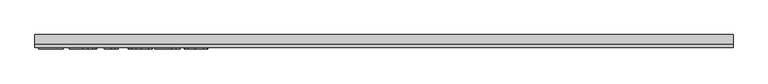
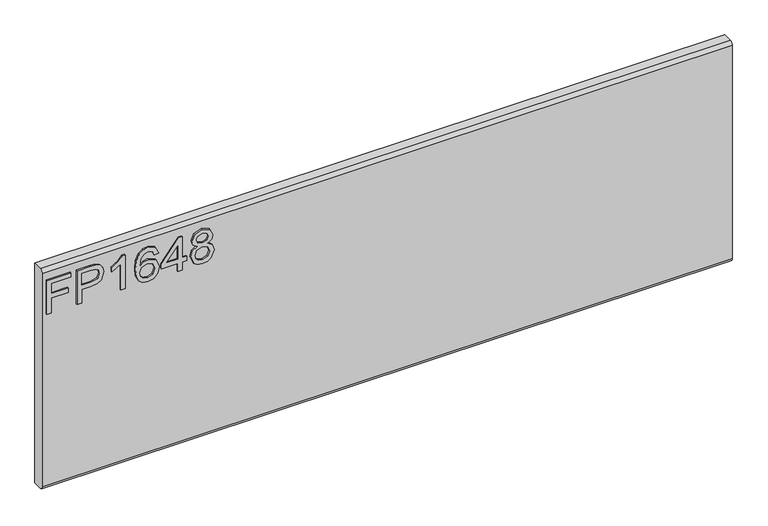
"""IFC4 building model written with IfcOpenShell, lengths in millimetres: furniture geometry."""

from ifc_helpers import new_model, si_unit, frame, origin, place, context, project, spatial, polyline, circle_curve, outline, extrude, source, transform, mapped, element, save
from ifc_brep_helpers import plane_surface, cylinder_surface, advanced_brep


def furniture_0245ad47(model_context):
    return source(origin(), model_context, "Body", "SolidModel", [
        extrude(outline(polyline([(476.25, -596.4115385), (476.25, -588.5961538), (504.5807692, -588.5961538), (504.5807692, -559.2884615), (512.3961538, -559.2884615), (512.3961538, -588.5961538), (530.9576923, -588.5961538), (530.9576923, -554.4038462), (538.7730769, -554.4038462), (538.7730769, -596.4115385), (476.25, -596.4115385)])), frame((0.0, -15.0812439, 0.0), z_axis=(0.0, 1.0, 0.0), x_axis=(0.0, 0.0, 1.0)), (0.0, 0.0, 1.0), 2.38125),
        extrude(outline(polyline([(476.25, -543.6576923), (476.25, -535.8423077), (501.65, -535.8423077), (501.65, -519.9520433), (503.0314303, -508.8490835), (507.1757212, -501.795012), (520.6847356, -496.7653846), (529.2099159, -498.6276442), (535.2546274, -503.5504207), (538.1777644, -511.1444712), (538.7730769, -520.4862981), (538.7730769, -543.6576923), (476.25, -543.6576923)]), holes=[polyline([(509.4653846, -535.8423077), (530.9576923, -535.8423077), (530.9576923, -519.6772837), (530.4234375, -511.861899), (526.8820913, -506.5880409), (520.409976, -504.5807692), (512.3350962, -507.9847356), (509.4653846, -519.4941106), (509.4653846, -535.8423077)])]), frame((0.0, -15.0812439, 0.0), z_axis=(0.0, 1.0, 0.0), x_axis=(0.0, 0.0, 1.0)), (0.0, 0.0, 1.0), 2.38125),
        extrude(outline(polyline([(476.25, -459.6423077), (538.7730769, -459.6423077), (538.7730769, -464.6795673), (530.4539663, -471.632512), (523.1423077, -483.0884615), (515.7543269, -483.0884615), (519.7001803, -474.8609375), (524.9740385, -467.4576923), (476.25, -467.4576923), (476.25, -459.6423077)])), frame((0.0, -15.0812439, 0.0), z_axis=(0.0, 1.0, 0.0), x_axis=(0.0, 0.0, 1.0)), (0.0, 0.0, 1.0), 2.38125),
        extrude(outline(polyline([(522.1653846, -401.0269231), (534.3616587, -406.796875), (538.7730769, -419.1457933), (536.9909555, -428.2166767), (531.6445913, -435.2192308), (521.0014724, -440.3480769), (505.4355769, -442.0576923), (491.5907452, -440.5178936), (482.2947115, -435.8984976), (477.0284856, -428.8367939), (475.2730769, -419.9700721), (477.9214543, -409.7276442), (485.5536659, -402.6296875), (496.3379808, -400.05), (510.7323317, -405.5299279), (516.3038462, -418.809976), (514.2660457, -427.3504207), (508.0305288, -434.2423077), (521.9593149, -432.0213341), (529.0649038, -426.6864183), (530.9576923, -419.6342548), (527.7063702, -411.8036058), (521.1884615, -408.8423077), (522.1653846, -401.0269231)]), holes=[polyline([(496.4600962, -434.2423077), (505.1684495, -430.357512), (508.4884615, -420.9012019), (505.1684495, -411.3227764), (496.0784856, -407.8653846), (486.5840144, -411.3685697), (483.0884615, -420.580649), (484.7751803, -427.6251803), (489.6903245, -432.4334736), (496.4600962, -434.2423077)])]), frame((0.0, -15.0812439, 0.0), z_axis=(0.0, 1.0, 0.0), x_axis=(0.0, 0.0, 1.0)), (0.0, 0.0, 1.0), 2.38125),
        extrude(outline(polyline([(476.25, -367.8115385), (476.25, -359.9961538), (490.9038462, -359.9961538), (490.9038462, -352.1807692), (498.7192308, -352.1807692), (498.7192308, -359.9961538), (537.7961538, -359.9961538), (537.7961538, -365.8576923), (498.7192308, -396.1423077), (490.9038462, -396.1423077), (490.9038462, -367.8115385), (476.25, -367.8115385)]), holes=[polyline([(498.7192308, -367.8115385), (498.7192308, -386.5257212), (522.8675481, -367.8115385), (498.7192308, -367.8115385)])]), frame((0.0, -15.0812439, 0.0), z_axis=(0.0, 1.0, 0.0), x_axis=(0.0, 0.0, 1.0)), (0.0, 0.0, 1.0), 2.38125),
        extrude(outline(polyline([(510.6865385, -333.9550481), (505.0081731, -342.3810096), (494.6588942, -345.3423077), (480.8216947, -339.6944712), (476.6602314, -333.1536659), (475.2730769, -324.8269231), (476.6545072, -316.5001803), (480.7987981, -309.959375), (494.4451923, -304.3115385), (504.5578726, -307.1583534), (510.6865385, -315.4698317), (515.5177284, -308.5474159), (522.8828125, -306.2653846), (534.1479567, -311.3942308), (538.7730769, -324.933774), (534.2548077, -338.3512019), (523.0965144, -343.3884615), (515.540625, -341.0759014), (510.6865385, -333.9550481)]), holes=[polyline([(522.8675481, -335.5730769), (528.5764423, -332.7567909), (530.9576923, -324.8269231), (528.5230168, -316.9199519), (522.5164663, -314.0807692), (516.7159856, -316.8283654), (514.35, -324.7353365), (516.73125, -332.8025841), (522.8675481, -335.5730769)]), polyline([(494.9336538, -337.5269231), (503.2222356, -334.2221755), (506.5346154, -325.0253606), (503.1764423, -315.5614183), (494.6894231, -312.1269231), (486.3626803, -315.4545673), (483.0884615, -324.7658654), (484.6454327, -331.6043269), (489.0492188, -336.2218149), (494.9336538, -337.5269231)])]), frame((0.0, -15.0812439, 0.0), z_axis=(0.0, 1.0, 0.0), x_axis=(0.0, 0.0, 1.0)), (0.0, 0.0, 1.0), 2.38125),
        advanced_brep(
        [(603.25, 9.5250061, 558.8), (603.25, -6.7309939, 558.8), (603.25, -12.6999939, 552.831), (603.25, -12.6999939, 158.369), (603.25, -6.7309939, 152.4), (603.25, 9.5250061, 152.4), (-603.25, 9.5250061, 558.8), (-603.25, 9.5250061, 152.4), (-603.25, -6.7309939, 152.4), (-603.25, -12.6999939, 158.369), (-603.25, -12.6999939, 552.8310121), (-603.25, -6.7309939, 558.8)],
        [
            (0, 1),
            (1, 2, circle_curve(frame((603.25, -6.7309939, 552.831), z_axis=(1.0, 0.0, 0.0), x_axis=(0.0, 1.0, 0.0)), 5.969)),
            (2, 3),
            (3, 4, circle_curve(frame((603.25, -6.7309939, 158.369), z_axis=(1.0, 0.0, 0.0), x_axis=(0.0, 1.0, 0.0)), 5.969)),
            (4, 5),
            (5, 0),
            (6, 7),
            (7, 8),
            (8, 9, circle_curve(frame((-603.25, -6.7309939, 158.369), z_axis=(-1.0, 0.0, 0.0), x_axis=(0.0, 1.0, 0.0)), 5.969)),
            (9, 10),
            (10, 11, circle_curve(frame((-603.25, -6.7309939, 552.831), z_axis=(-1.0, 0.0, 0.0), x_axis=(0.0, 1.0, 0.0)), 5.969)),
            (11, 6),
            (0, 6),
            (11, 1),
            (10, 2),
            (9, 3),
            (8, 4),
            (7, 5),
        ],
        [
            plane_surface(frame((603.25, -6.7309939, 558.8), z_axis=(1.0, 0.0, 0.0), x_axis=(0.0, -1.0, 0.0))),
            plane_surface(frame((-603.25, -6.7309939, 558.8), z_axis=(-1.0, 0.0, 0.0), x_axis=(0.0, 1.0, 0.0))),
            plane_surface(frame((603.25, 9.5250061, 558.8), z_axis=(0.0, 0.0, 1.0), x_axis=(-1.0, 0.0, 0.0))),
            cylinder_surface(frame((-603.25, -6.7309939, 552.831), z_axis=(1.0, 0.0, 0.0), x_axis=(0.0, 1.0, 0.0)), 5.969),
            plane_surface(frame((603.25, -12.6999939, 552.8310121), z_axis=(0.0, -1.0, 0.0), x_axis=(-1.0, 0.0, 0.0))),
            cylinder_surface(frame((-603.25, -6.7309939, 158.369), z_axis=(1.0, 0.0, 0.0), x_axis=(0.0, 1.0, 0.0)), 5.969),
            plane_surface(frame((603.25, -6.7309939, 152.4), z_axis=(0.0, 0.0, -1.0), x_axis=(-1.0, 0.0, 0.0))),
            plane_surface(frame((603.25, 9.5250061, 152.4), z_axis=(0.0, 1.0, 0.0), x_axis=(-1.0, 0.0, 0.0))),
        ],
        [
            (0, [[1, 2, 3, 4, 5, 6]]),
            (1, [[7, 8, 9, 10, 11, 12]]),
            (2, [[-1, 13, -12, 14]]),
            (3, [[-2, -14, -11, 15]]),
            (4, [[-3, -15, -10, 16]]),
            (5, [[-4, -16, -9, 17]]),
            (6, [[-5, -17, -8, 18]]),
            (7, [[-6, -18, -7, -13]]),
        ],
    ),
    ])


if __name__ == "__main__":
    model = new_model("IFC4")
    model_context = context("Model", 3, world=origin())
    ifc_project = project(units=[si_unit("LENGTHUNIT", "METRE", prefix="MILLI")], contexts=[model_context])
    site = spatial("IfcSite", under=ifc_project)
    building = spatial("IfcBuilding", under=site)
    placement = place(None, origin())
    furniture_shape = furniture_0245ad47(model_context)
    element("IfcFurniture", 1, ObjectType="HermanMiller_Ethospace_E1420_FaceTile : Ptd 16\"H x 48\"W", at=placement, inside=building, context=model_context, shape_type="MappedRepresentation", body=[
        mapped(furniture_shape, transform((0.0, 0.0, 0.0), x_axis=(1.0, 0.0, 0.0), y_axis=(0.0, 1.0, 0.0), z_axis=(0.0, 0.0, 1.0))),
    ])
    save(model, "model.ifc")
